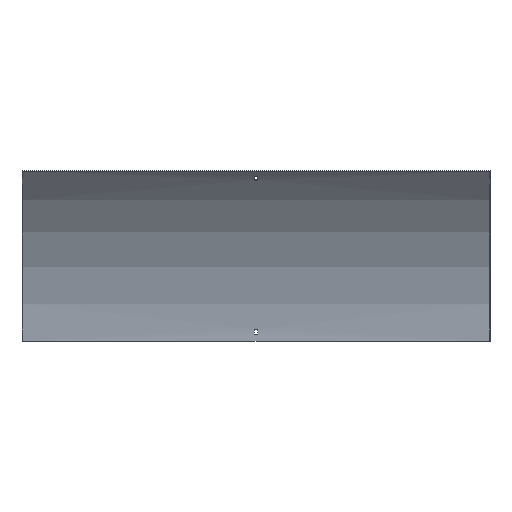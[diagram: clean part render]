
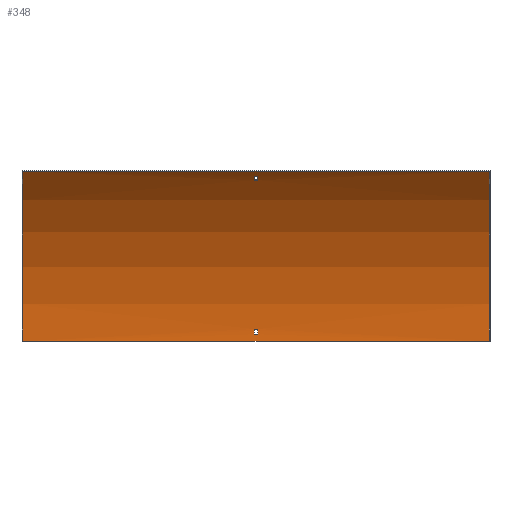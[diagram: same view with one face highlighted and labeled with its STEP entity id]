
A CAD part, front view. The second image highlights one B-rep face of the part: STEP entity #348.
In plain terms, the highlighted cylindrical face has radius 412.5 mm (diameter 825 mm), a partial arc.
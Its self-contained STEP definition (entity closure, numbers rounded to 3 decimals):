
#12 = CARTESIAN_POINT ( 'NONE',  ( 401.5, -2.035, 21. ) ) ;
#13 = CARTESIAN_POINT ( 'NONE',  ( 400., -122.318, 291.682 ) ) ;
#17 = VECTOR ( 'NONE', #556, 1000. ) ;
#19 = DIRECTION ( 'NONE',  ( -1., 0., 0. ) ) ;
#20 = CARTESIAN_POINT ( 'NONE',  ( 401.5, -113.957, 283.073 ) ) ;
#22 = EDGE_CURVE ( 'NONE', #487, #552, #118, .T. ) ;
#47 = CIRCLE ( 'NONE', #263, 412.5 ) ;
#53 = DIRECTION ( 'NONE',  ( 1., 0., 0. ) ) ;
#59 = CARTESIAN_POINT ( 'NONE',  ( -3.25, -1.675, 12. ) ) ;
#70 = ORIENTED_EDGE ( 'NONE', *, *, #115, .T. ) ;
#71 = DIRECTION ( 'NONE',  ( -1., 0., 0. ) ) ;
#73 = CARTESIAN_POINT ( 'NONE',  ( 400., -1.5, 0. ) ) ;
#75 = ORIENTED_EDGE ( 'NONE', *, *, #479, .T. ) ;
#77 = DIRECTION ( 'NONE',  ( 1., 0., 0. ) ) ;
#92 = VERTEX_POINT ( 'NONE', #506 ) ;
#96 = CARTESIAN_POINT ( 'NONE',  ( 401.5, -107.847, 276.454 ) ) ;
#99 = VERTEX_POINT ( 'NONE', #365 ) ;
#115 = EDGE_CURVE ( 'NONE', #410, #604, #463, .T. ) ;
#118 = LINE ( 'NONE', #443, #300 ) ;
#120 = ORIENTED_EDGE ( 'NONE', *, *, #22, .F. ) ;
#123 = FACE_OUTER_BOUND ( 'NONE', #344, .T. ) ;
#128 = CIRCLE ( 'NONE', #285, 412.5 ) ;
#131 = EDGE_LOOP ( 'NONE', ( #501, #531, #378, #120 ) ) ;
#132 = VECTOR ( 'NONE', #19, 1000. ) ;
#145 = DIRECTION ( 'NONE',  ( 1., 0., 0. ) ) ;
#146 = CARTESIAN_POINT ( 'NONE',  ( 3.25, -1.675, 12. ) ) ;
#151 = EDGE_CURVE ( 'NONE', #92, #467, #509, .T. ) ;
#153 = VERTEX_POINT ( 'NONE', #415 ) ;
#157 = VECTOR ( 'NONE', #380, 1000. ) ;
#165 = DIRECTION ( 'NONE',  ( 1., 0., 0. ) ) ;
#172 = AXIS2_PLACEMENT_3D ( 'NONE', #579, #534, #347 ) ;
#181 = VERTEX_POINT ( 'NONE', #564 ) ;
#190 = EDGE_CURVE ( 'NONE', #99, #374, #47, .T. ) ;
#192 = EDGE_LOOP ( 'NONE', ( #70, #505, #75, #256 ) ) ;
#194 = CARTESIAN_POINT ( 'NONE',  ( -3.25, -414., 0. ) ) ;
#196 = EDGE_CURVE ( 'NONE', #552, #92, #128, .T. ) ;
#202 = ORIENTED_EDGE ( 'NONE', *, *, #213, .F. ) ;
#203 = DIRECTION ( 'NONE',  ( 0., 0., -1. ) ) ;
#210 = DIRECTION ( 'NONE',  ( 0., 0., -1. ) ) ;
#212 = CARTESIAN_POINT ( 'NONE',  ( 3.25, -414., 0. ) ) ;
#213 = EDGE_CURVE ( 'NONE', #153, #231, #345, .T. ) ;
#224 = ORIENTED_EDGE ( 'NONE', *, *, #190, .T. ) ;
#226 = EDGE_CURVE ( 'NONE', #99, #153, #331, .T. ) ;
#229 = DIRECTION ( 'NONE',  ( 1., 0., 0. ) ) ;
#231 = VERTEX_POINT ( 'NONE', #239 ) ;
#233 = CIRCLE ( 'NONE', #576, 412.5 ) ;
#239 = CARTESIAN_POINT ( 'NONE',  ( -400., -122.318, 291.682 ) ) ;
#246 = CARTESIAN_POINT ( 'NONE',  ( -3.25, -2.035, 21. ) ) ;
#256 = ORIENTED_EDGE ( 'NONE', *, *, #457, .T. ) ;
#262 = ORIENTED_EDGE ( 'NONE', *, *, #226, .F. ) ;
#263 = AXIS2_PLACEMENT_3D ( 'NONE', #379, #145, #567 ) ;
#268 = CARTESIAN_POINT ( 'NONE',  ( -400., -414., 0. ) ) ;
#270 = DIRECTION ( 'NONE',  ( 0., 0., 1. ) ) ;
#279 = CIRCLE ( 'NONE', #324, 412.5 ) ;
#282 = DIRECTION ( 'NONE',  ( -1., 0., 0. ) ) ;
#285 = AXIS2_PLACEMENT_3D ( 'NONE', #329, #520, #203 ) ;
#298 = ORIENTED_EDGE ( 'NONE', *, *, #597, .T. ) ;
#300 = VECTOR ( 'NONE', #165, 1000. ) ;
#324 = AXIS2_PLACEMENT_3D ( 'NONE', #212, #592, #270 ) ;
#329 = CARTESIAN_POINT ( 'NONE',  ( 3.25, -414., 0. ) ) ;
#331 = LINE ( 'NONE', #73, #132 ) ;
#332 = CARTESIAN_POINT ( 'NONE',  ( -3.25, -107.847, 276.454 ) ) ;
#336 = LINE ( 'NONE', #20, #439 ) ;
#342 = CYLINDRICAL_SURFACE ( 'NONE', #172, 412.5 ) ;
#344 = EDGE_LOOP ( 'NONE', ( #202, #262, #224, #298 ) ) ;
#345 = CIRCLE ( 'NONE', #559, 412.5 ) ;
#347 = DIRECTION ( 'NONE',  ( 0., 0., 1. ) ) ;
#348 = ADVANCED_FACE ( 'NONE', ( #532, #123, #387 ), #342, .F. ) ;
#365 = CARTESIAN_POINT ( 'NONE',  ( 400., -1.5, 0. ) ) ;
#374 = VERTEX_POINT ( 'NONE', #598 ) ;
#377 = AXIS2_PLACEMENT_3D ( 'NONE', #465, #53, #412 ) ;
#378 = ORIENTED_EDGE ( 'NONE', *, *, #196, .F. ) ;
#379 = CARTESIAN_POINT ( 'NONE',  ( 400., -414., 0. ) ) ;
#380 = DIRECTION ( 'NONE',  ( -1., 0., 0. ) ) ;
#387 = FACE_BOUND ( 'NONE', #192, .T. ) ;
#401 = CIRCLE ( 'NONE', #377, 412.5 ) ;
#410 = VERTEX_POINT ( 'NONE', #602 ) ;
#412 = DIRECTION ( 'NONE',  ( 0., 0., -1. ) ) ;
#415 = CARTESIAN_POINT ( 'NONE',  ( -400., -1.5, 0. ) ) ;
#426 = LINE ( 'NONE', #13, #157 ) ;
#433 = DIRECTION ( 'NONE',  ( 0., 0., 1. ) ) ;
#439 = VECTOR ( 'NONE', #229, 1000. ) ;
#443 = CARTESIAN_POINT ( 'NONE',  ( 401.5, -1.675, 12. ) ) ;
#448 = EDGE_CURVE ( 'NONE', #604, #524, #401, .T. ) ;
#457 = EDGE_CURVE ( 'NONE', #181, #410, #279, .T. ) ;
#463 = LINE ( 'NONE', #96, #17 ) ;
#465 = CARTESIAN_POINT ( 'NONE',  ( -3.25, -414., 0. ) ) ;
#467 = VERTEX_POINT ( 'NONE', #246 ) ;
#479 = EDGE_CURVE ( 'NONE', #524, #181, #336, .T. ) ;
#487 = VERTEX_POINT ( 'NONE', #59 ) ;
#501 = ORIENTED_EDGE ( 'NONE', *, *, #503, .F. ) ;
#503 = EDGE_CURVE ( 'NONE', #467, #487, #233, .T. ) ;
#505 = ORIENTED_EDGE ( 'NONE', *, *, #448, .T. ) ;
#506 = CARTESIAN_POINT ( 'NONE',  ( 3.25, -2.035, 21. ) ) ;
#509 = LINE ( 'NONE', #12, #584 ) ;
#520 = DIRECTION ( 'NONE',  ( 1., 0., 0. ) ) ;
#524 = VERTEX_POINT ( 'NONE', #571 ) ;
#531 = ORIENTED_EDGE ( 'NONE', *, *, #151, .F. ) ;
#532 = FACE_BOUND ( 'NONE', #131, .T. ) ;
#534 = DIRECTION ( 'NONE',  ( -1., 0., 0. ) ) ;
#552 = VERTEX_POINT ( 'NONE', #146 ) ;
#556 = DIRECTION ( 'NONE',  ( -1., 0., 0. ) ) ;
#559 = AXIS2_PLACEMENT_3D ( 'NONE', #268, #77, #210 ) ;
#564 = CARTESIAN_POINT ( 'NONE',  ( 3.25, -113.957, 283.073 ) ) ;
#567 = DIRECTION ( 'NONE',  ( 0., 0., -1. ) ) ;
#571 = CARTESIAN_POINT ( 'NONE',  ( -3.25, -113.957, 283.073 ) ) ;
#576 = AXIS2_PLACEMENT_3D ( 'NONE', #194, #71, #433 ) ;
#579 = CARTESIAN_POINT ( 'NONE',  ( 401.5, -414., 0. ) ) ;
#584 = VECTOR ( 'NONE', #282, 1000. ) ;
#592 = DIRECTION ( 'NONE',  ( -1., 0., 0. ) ) ;
#597 = EDGE_CURVE ( 'NONE', #374, #231, #426, .T. ) ;
#598 = CARTESIAN_POINT ( 'NONE',  ( 400., -122.318, 291.682 ) ) ;
#602 = CARTESIAN_POINT ( 'NONE',  ( 3.25, -107.847, 276.454 ) ) ;
#604 = VERTEX_POINT ( 'NONE', #332 ) ;
